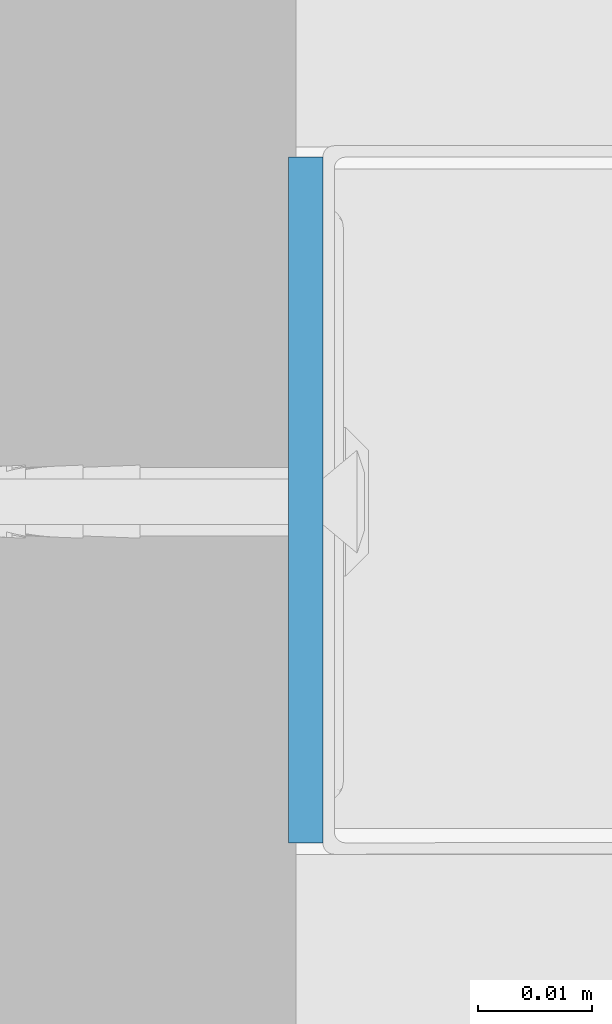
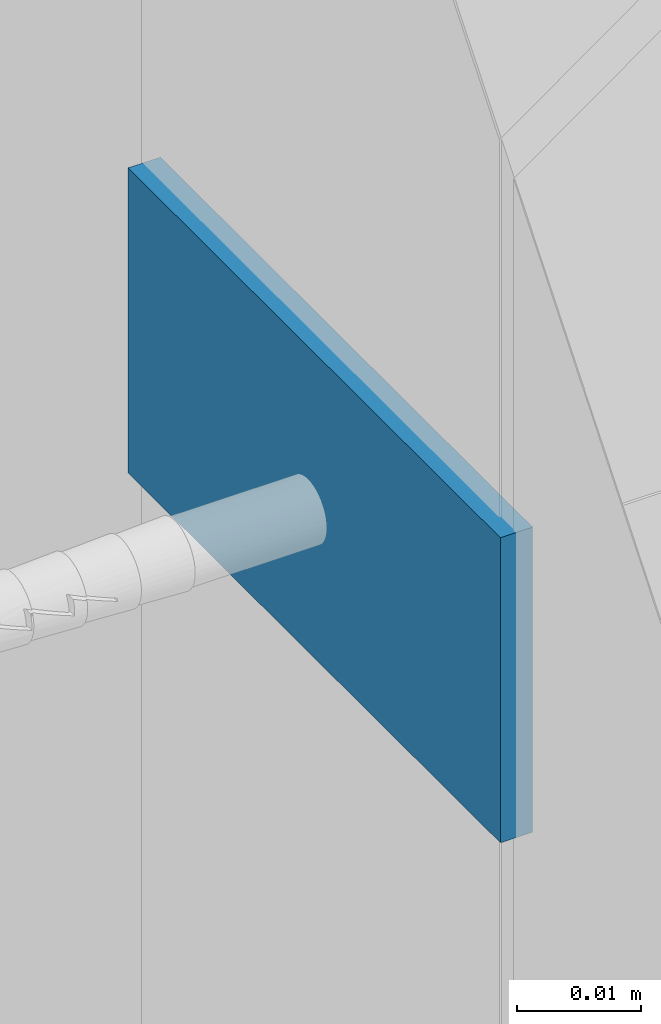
# One storey, part 58 of 62: 1 wall.
"""IFC2X3 building model written with IfcOpenShell, lengths in millimetres."""

from ifc_helpers import new_model, si_unit, frame, origin_with_axes, place, context, subcontext, project, spatial, faceted_brep, material, type_object, element, save


model = new_model("IFC2X3")

# Units and contexts
model_context = context("Model", 3, world=origin_with_axes())
body_context = subcontext(model_context, "Body", "Model", "MODEL_VIEW")
ifc_project = project(units=[si_unit("LENGTHUNIT", "METRE", prefix="MILLI"), si_unit("AREAUNIT", "SQUARE_METRE"), si_unit("VOLUMEUNIT", "CUBIC_METRE")], contexts=[model_context])

# Site, building, storey
site_placement = place(None, frame((2152.14102611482, -2015.0250894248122, 57.61556563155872), z_axis=(0.0, 0.0, 1.0), x_axis=(-1.1102230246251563e-16, 1.0, 0.0)))
site = spatial("IfcSite", under=ifc_project, at=site_placement, Name="Default Site", CompositionType="ELEMENT")
building_placement = place(site_placement, origin_with_axes())
building = spatial("IfcBuilding", under=site, at=building_placement, Name="Default Building", CompositionType="ELEMENT")
storey_placement = place(building_placement, origin_with_axes())
storey = spatial("IfcBuildingStorey", under=building, at=storey_placement, Name="Default Building Storey", CompositionType="ELEMENT", Elevation=57.61556563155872)

# Wall
ifc_material = material(Name="Default")
wall_type = type_object("IfcWallType", Name="Taśma uszczelniająca piankowa RIGIPS szer.30mm#9", PredefinedType="NOTDEFINED")
wall_placement = place(storey_placement, frame((3408.037086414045, 2019.778611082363, 1278.8496604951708), z_axis=(0.0, 0.0, 1.0), x_axis=(1.0, 0.0, 0.0)))
element("IfcWall", 1, at=wall_placement, inside=storey, type_object=wall_type, material=ifc_material, Name="Taśma uszczelniająca piankowa RIGIPS szer.30mm", context=body_context, shape_type="Brep", body=[
    faceted_brep([(59.99999865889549, 0.0, 4.511946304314e-12), (0.0, 0.0, 0.0), (1.0828671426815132e-12, -2.2379254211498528e-11, -29.999999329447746), (59.99999865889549, -2.2379254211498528e-11, -29.999999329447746), (0.0, 3.000000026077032, 0.0), (1.0828671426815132e-12, 3.000000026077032, -29.999999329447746), (59.99999865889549, 3.000000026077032, 0.0), (59.99999865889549, 3.000000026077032, -29.999999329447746)], [[[0, 1, 2, 3]], [[1, 4, 5, 2]], [[4, 6, 7, 5]], [[6, 0, 3, 7]], [[7, 3, 2, 5]], [[0, 6, 4, 1]]]),
])

save(model, "model.ifc")
